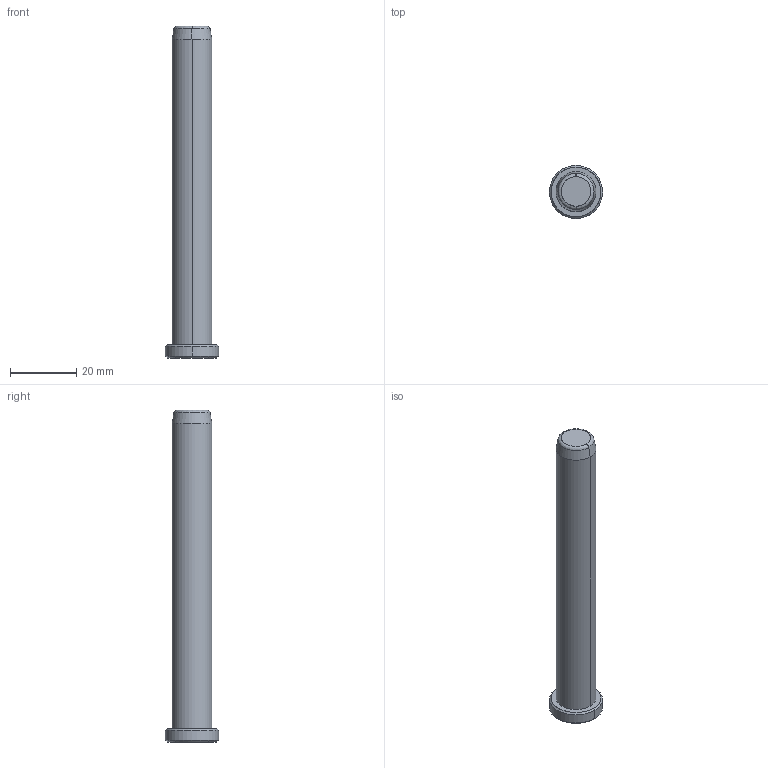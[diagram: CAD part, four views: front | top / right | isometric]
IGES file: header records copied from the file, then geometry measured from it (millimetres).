
Start section: START RECORD GO HERE.
Global section: file name: B81812100.igs; native system: DASSAULT SYSTEMES CATIA V5 R20 - www.3ds.com; preprocessor: CATIA Version 5 Release 20 ; author: Utente; organization: NB04-ASUS; date: 20200419.172451; units: millimetre
Bounding box: 16 x 16 x 100 mm (x, y, z)
Surface area: 4150.8 mm2 (no closed solid volume)
Topology: 0 solids, 0 shells, 17 faces, 68 edges, 68 vertices
Faces by surface type: revolution 14, plane 3
